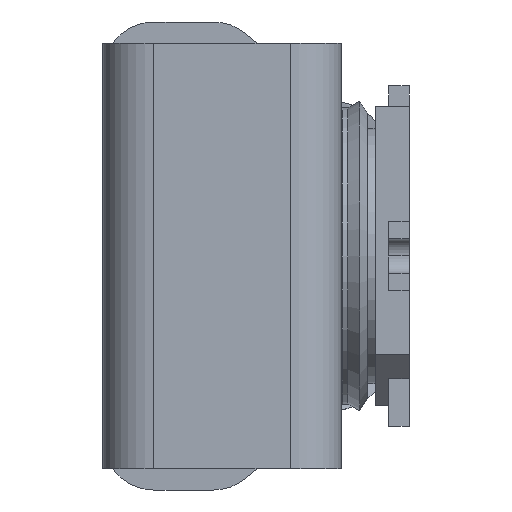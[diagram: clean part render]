
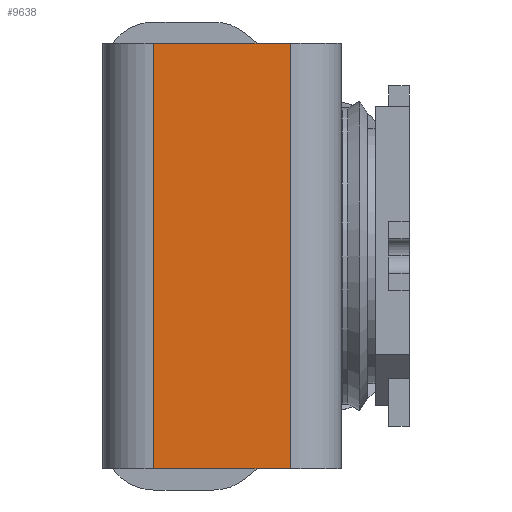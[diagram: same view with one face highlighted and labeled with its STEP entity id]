
A CAD part, left-side view. The second image highlights one B-rep face of the part: STEP entity #9638.
In plain terms, the highlighted planar face has unit normal (-1, 0, 0).
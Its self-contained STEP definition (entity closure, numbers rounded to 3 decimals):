
#329 = VECTOR ( 'NONE', #1129, 1000. ) ;
#684 = CARTESIAN_POINT ( 'NONE',  ( -1.42, 1.5, 1.25 ) ) ;
#713 = DIRECTION ( 'NONE',  ( 0., 0., 1. ) ) ;
#851 = LINE ( 'NONE', #7424, #9310 ) ;
#884 = PLANE ( 'NONE',  #9100 ) ;
#1129 = DIRECTION ( 'NONE',  ( 0., 1., 0. ) ) ;
#1604 = ORIENTED_EDGE ( 'NONE', *, *, #7541, .F. ) ;
#1956 = DIRECTION ( 'NONE',  ( 0., 0., 1. ) ) ;
#3802 = VECTOR ( 'NONE', #1956, 1000. ) ;
#4163 = VERTEX_POINT ( 'NONE', #4496 ) ;
#4182 = DIRECTION ( 'NONE',  ( 0., 0., 1. ) ) ;
#4496 = CARTESIAN_POINT ( 'NONE',  ( -1.42, 0.7, -1.25 ) ) ;
#4501 = EDGE_CURVE ( 'NONE', #4163, #11472, #11913, .T. ) ;
#4519 = CARTESIAN_POINT ( 'NONE',  ( -1.42, 1.5, -1.25 ) ) ;
#4576 = CARTESIAN_POINT ( 'NONE',  ( -1.42, 0.7, 1.25 ) ) ;
#4675 = DIRECTION ( 'NONE',  ( 0., 1., 0. ) ) ;
#6231 = EDGE_CURVE ( 'NONE', #11431, #6484, #10498, .T. ) ;
#6407 = CARTESIAN_POINT ( 'NONE',  ( -1.42, 0.7, -1.375 ) ) ;
#6484 = VERTEX_POINT ( 'NONE', #684 ) ;
#6649 = FACE_OUTER_BOUND ( 'NONE', #7048, .T. ) ;
#7048 = EDGE_LOOP ( 'NONE', ( #1604, #11327, #7950, #8922 ) ) ;
#7173 = CARTESIAN_POINT ( 'NONE',  ( -1.42, 0.7, -1.375 ) ) ;
#7424 = CARTESIAN_POINT ( 'NONE',  ( -1.42, 0.4, -1.25 ) ) ;
#7541 = EDGE_CURVE ( 'NONE', #4163, #11431, #851, .T. ) ;
#7950 = ORIENTED_EDGE ( 'NONE', *, *, #11260, .T. ) ;
#8661 = VECTOR ( 'NONE', #4182, 1000. ) ;
#8922 = ORIENTED_EDGE ( 'NONE', *, *, #6231, .F. ) ;
#9100 = AXIS2_PLACEMENT_3D ( 'NONE', #6407, #9251, #713 ) ;
#9251 = DIRECTION ( 'NONE',  ( -1., 0., 0. ) ) ;
#9310 = VECTOR ( 'NONE', #4675, 1000. ) ;
#9638 = ADVANCED_FACE ( 'NONE', ( #6649 ), #884, .T. ) ;
#9803 = LINE ( 'NONE', #9869, #329 ) ;
#9869 = CARTESIAN_POINT ( 'NONE',  ( -1.42, 0.4, 1.25 ) ) ;
#10498 = LINE ( 'NONE', #11423, #3802 ) ;
#11260 = EDGE_CURVE ( 'NONE', #11472, #6484, #9803, .T. ) ;
#11327 = ORIENTED_EDGE ( 'NONE', *, *, #4501, .T. ) ;
#11423 = CARTESIAN_POINT ( 'NONE',  ( -1.42, 1.5, -1.375 ) ) ;
#11431 = VERTEX_POINT ( 'NONE', #4519 ) ;
#11472 = VERTEX_POINT ( 'NONE', #4576 ) ;
#11913 = LINE ( 'NONE', #7173, #8661 ) ;
